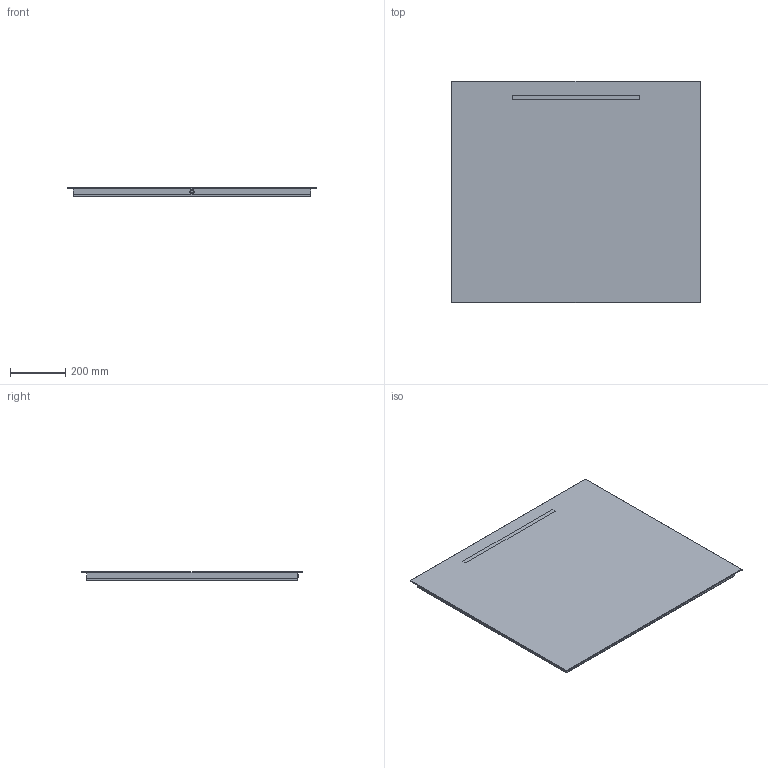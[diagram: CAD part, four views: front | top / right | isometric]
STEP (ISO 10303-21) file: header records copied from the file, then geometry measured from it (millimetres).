
FILE_DESCRIPTION (( 'STEP AP203' ), '1' );
FILE_NAME ('SPIEGEL MODEL 13 90CM.STEP', '2016-07-14T09:45:53', ( '' ), ( '' ), 'SwSTEP 2.0', 'SolidWorks 2016', '' );
FILE_SCHEMA (( 'CONFIG_CONTROL_DESIGN' ));
Length unit declared in the file: millimetre
Products named in the file (1): SPIEGEL MODEL 13 90CM
Bounding box: 900 x 800 x 30 mm (x, y, z)
Volume: 4102774.6 mm3; surface area: 1627284.4 mm2
Topology: 2 solids, 2 shells, 69 faces, 148 edges, 90 vertices
Faces by surface type: plane 59, cylinder 8, torus 2
Entity records: 1893 total; most frequent: CARTESIAN_POINT 308, DIRECTION 308, ORIENTED_EDGE 296, EDGE_CURVE 148, VECTOR 128, LINE 128, VERTEX_POINT 90, AXIS2_PLACEMENT_3D 90
